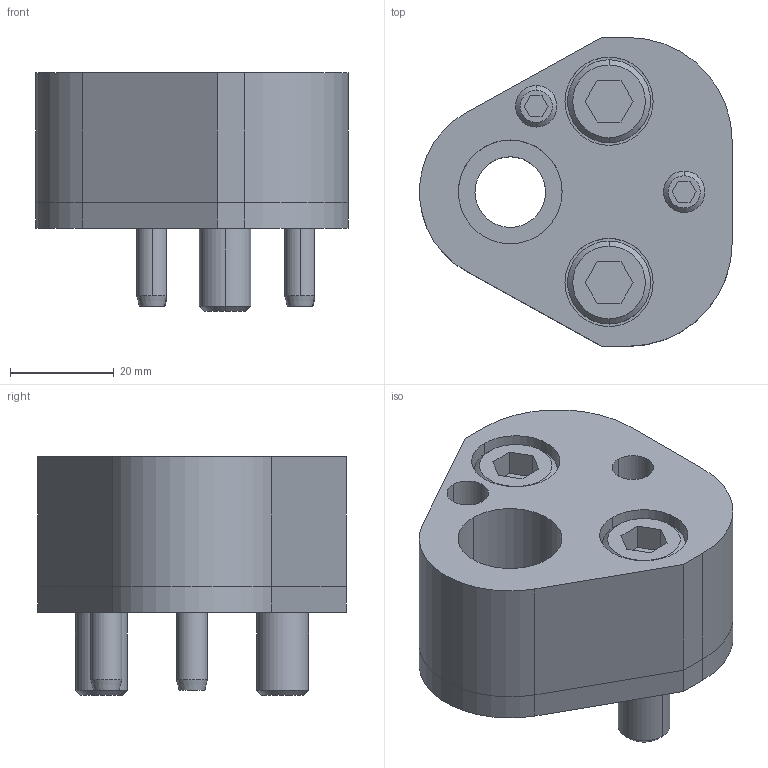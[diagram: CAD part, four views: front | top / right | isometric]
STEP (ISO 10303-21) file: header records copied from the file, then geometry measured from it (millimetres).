
FILE_DESCRIPTION(/* description */ (''),/* implementation_level */ '2;1');
FILE_NAME(/* name */ '3d_25crn-ad20_03122_r00.stp',/* time_stamp */ '2011-01-10T14:17:55+09:00',/* author */ ('MISUMI'),/* organization */ (''),/* preprocessor_version */ 'ST-DEVELOPER v11',/* originating_system */ 'UGS - NX 5.0',/* authorisation */ '');
FILE_SCHEMA (('CONFIG_CONTROL_DESIGN'));
Length unit declared in the file: millimetre
Products named in the file (1): 3d_25crn-ad20_03122_r00
Bounding box: 60.24 x 59.5 x 46 mm (x, y, z)
Volume: 71574.1 mm3; surface area: 26431.1 mm2
Topology: 8 solids, 8 shells, 155 faces, 348 edges, 224 vertices
Faces by surface type: plane 67, cylinder 62, cone 26
Entity records: 4494 total; most frequent: DIRECTION 804, CARTESIAN_POINT 782, ORIENTED_EDGE 696, EDGE_CURVE 348, AXIS2_PLACEMENT_3D 306, VERTEX_POINT 224, LINE 192, VECTOR 192
